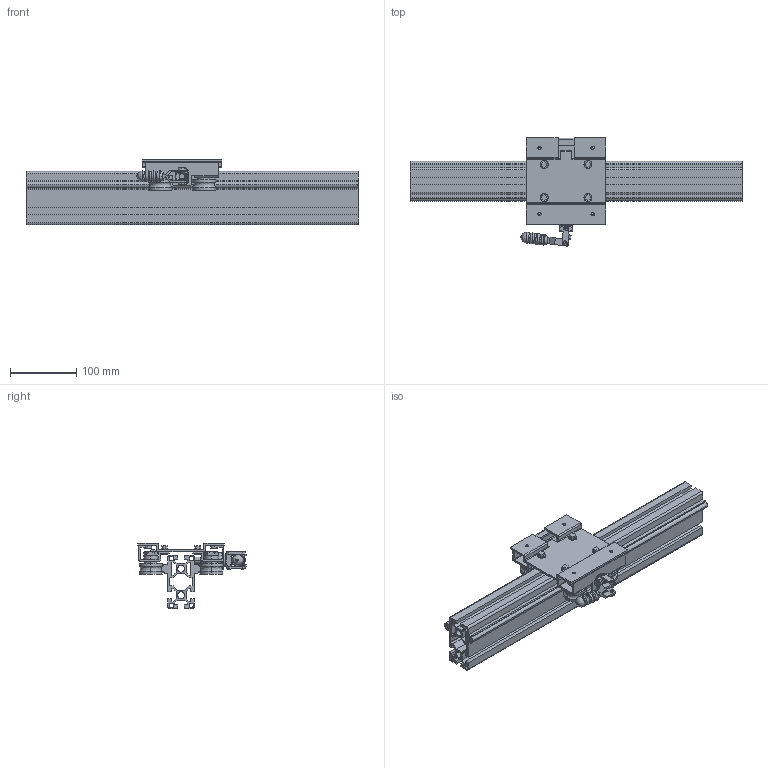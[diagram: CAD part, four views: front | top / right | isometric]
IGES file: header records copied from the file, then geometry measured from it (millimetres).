
Global section: file name: No Iges File Name specified; native system: AutoDesk Inventor R11.0; preprocessor: AutoDesk Inventor Iges Exporter R11.0; author: No Author specified; organization: No Organization specified; date: 20190610.115740; units: millimetre
Bounding box: 500 x 162.95 x 98 mm (x, y, z)
Surface area: 492212.3 mm2 (no closed solid volume)
Topology: 0 solids, 0 shells, 732 faces, 4693 edges, 4669 vertices
Faces by surface type: bspline 732
